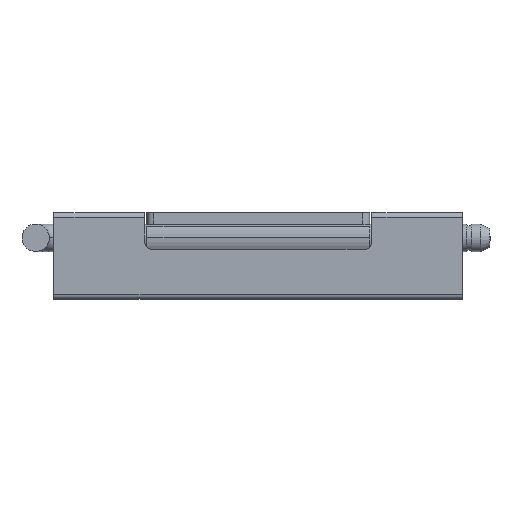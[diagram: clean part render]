
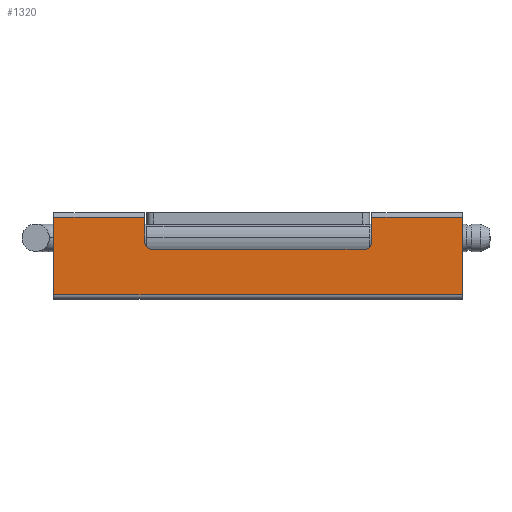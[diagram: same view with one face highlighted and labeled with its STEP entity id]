
A CAD part, top view. The second image highlights one B-rep face of the part: STEP entity #1320.
In plain terms, the highlighted planar face has unit normal (0, 0, 1).
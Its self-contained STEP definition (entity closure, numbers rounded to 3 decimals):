
#44 = EDGE_CURVE ( 'NONE', #1538, #2231, #514, .T. ) ;
#96 = ORIENTED_EDGE ( 'NONE', *, *, #1406, .F. ) ;
#148 = EDGE_CURVE ( 'NONE', #684, #874, #985, .T. ) ;
#180 = DIRECTION ( 'NONE',  ( 0., 0., -1. ) ) ;
#181 = CARTESIAN_POINT ( 'NONE',  ( 45., 18., 18.5 ) ) ;
#185 = CARTESIAN_POINT ( 'NONE',  ( 45., 18., 18.5 ) ) ;
#252 = CARTESIAN_POINT ( 'NONE',  ( -45., 18., 18.5 ) ) ;
#280 = ORIENTED_EDGE ( 'NONE', *, *, #1749, .F. ) ;
#288 = VECTOR ( 'NONE', #1743, 1000. ) ;
#334 = VECTOR ( 'NONE', #2130, 1000. ) ;
#366 = ORIENTED_EDGE ( 'NONE', *, *, #44, .T. ) ;
#472 = DIRECTION ( 'NONE',  ( -1., 0., 0. ) ) ;
#487 = CARTESIAN_POINT ( 'NONE',  ( -45., 18., 18.5 ) ) ;
#496 = CARTESIAN_POINT ( 'NONE',  ( 23.5, 12.5, 18.5 ) ) ;
#514 = LINE ( 'NONE', #487, #863 ) ;
#540 = CARTESIAN_POINT ( 'NONE',  ( 23.5, 11., 18.5 ) ) ;
#562 = DIRECTION ( 'NONE',  ( 0., 1., 0. ) ) ;
#578 = EDGE_CURVE ( 'NONE', #2436, #1538, #2149, .T. ) ;
#610 = CIRCLE ( 'NONE', #654, 1.5 ) ;
#654 = AXIS2_PLACEMENT_3D ( 'NONE', #1396, #2235, #2044 ) ;
#679 = CARTESIAN_POINT ( 'NONE',  ( 25., 18., 18.5 ) ) ;
#684 = VERTEX_POINT ( 'NONE', #2749 ) ;
#725 = ORIENTED_EDGE ( 'NONE', *, *, #2043, .T. ) ;
#788 = CIRCLE ( 'NONE', #1006, 1.5 ) ;
#849 = VERTEX_POINT ( 'NONE', #1376 ) ;
#863 = VECTOR ( 'NONE', #2221, 1000. ) ;
#874 = VERTEX_POINT ( 'NONE', #679 ) ;
#954 = ORIENTED_EDGE ( 'NONE', *, *, #1843, .F. ) ;
#980 = VERTEX_POINT ( 'NONE', #540 ) ;
#985 = LINE ( 'NONE', #181, #1685 ) ;
#999 = DIRECTION ( 'NONE',  ( 0., 1., 0. ) ) ;
#1006 = AXIS2_PLACEMENT_3D ( 'NONE', #496, #180, #999 ) ;
#1020 = CARTESIAN_POINT ( 'NONE',  ( -45., 1., 18.5 ) ) ;
#1052 = PLANE ( 'NONE',  #1606 ) ;
#1089 = ORIENTED_EDGE ( 'NONE', *, *, #578, .T. ) ;
#1151 = LINE ( 'NONE', #1582, #2746 ) ;
#1197 = ORIENTED_EDGE ( 'NONE', *, *, #1710, .F. ) ;
#1303 = CARTESIAN_POINT ( 'NONE',  ( -25., 18., 18.5 ) ) ;
#1320 = ADVANCED_FACE ( 'NONE', ( #2290 ), #1052, .F. ) ;
#1376 = CARTESIAN_POINT ( 'NONE',  ( 25., 12.5, 18.5 ) ) ;
#1382 = CARTESIAN_POINT ( 'NONE',  ( 45., 1., 18.5 ) ) ;
#1396 = CARTESIAN_POINT ( 'NONE',  ( -23.5, 12.5, 18.5 ) ) ;
#1406 = EDGE_CURVE ( 'NONE', #684, #2094, #2549, .T. ) ;
#1422 = DIRECTION ( 'NONE',  ( -1., 0., 0. ) ) ;
#1511 = CARTESIAN_POINT ( 'NONE',  ( -25., 12.5, 18.5 ) ) ;
#1531 = CARTESIAN_POINT ( 'NONE',  ( 25., 19., 18.5 ) ) ;
#1538 = VERTEX_POINT ( 'NONE', #252 ) ;
#1554 = VECTOR ( 'NONE', #2566, 1000. ) ;
#1582 = CARTESIAN_POINT ( 'NONE',  ( 45., 1., 18.5 ) ) ;
#1606 = AXIS2_PLACEMENT_3D ( 'NONE', #185, #2669, #562 ) ;
#1612 = LINE ( 'NONE', #2324, #1870 ) ;
#1685 = VECTOR ( 'NONE', #1422, 1000. ) ;
#1710 = EDGE_CURVE ( 'NONE', #2699, #980, #1612, .T. ) ;
#1743 = DIRECTION ( 'NONE',  ( 0., 1., 0. ) ) ;
#1749 = EDGE_CURVE ( 'NONE', #2436, #1795, #2532, .T. ) ;
#1795 = VERTEX_POINT ( 'NONE', #1511 ) ;
#1799 = CARTESIAN_POINT ( 'NONE',  ( -23.5, 11., 18.5 ) ) ;
#1806 = ORIENTED_EDGE ( 'NONE', *, *, #2146, .T. ) ;
#1843 = EDGE_CURVE ( 'NONE', #849, #874, #2567, .T. ) ;
#1870 = VECTOR ( 'NONE', #2458, 1000. ) ;
#1926 = EDGE_LOOP ( 'NONE', ( #1197, #1806, #280, #1089, #366, #2297, #96, #1941, #954, #725 ) ) ;
#1941 = ORIENTED_EDGE ( 'NONE', *, *, #148, .T. ) ;
#2003 = VECTOR ( 'NONE', #2568, 1000. ) ;
#2043 = EDGE_CURVE ( 'NONE', #849, #980, #788, .T. ) ;
#2044 = DIRECTION ( 'NONE',  ( 0., 1., 0. ) ) ;
#2094 = VERTEX_POINT ( 'NONE', #1382 ) ;
#2130 = DIRECTION ( 'NONE',  ( 0., -1., 0. ) ) ;
#2146 = EDGE_CURVE ( 'NONE', #2699, #1795, #610, .T. ) ;
#2149 = LINE ( 'NONE', #2354, #1554 ) ;
#2171 = CARTESIAN_POINT ( 'NONE',  ( 45., 18., 18.5 ) ) ;
#2221 = DIRECTION ( 'NONE',  ( 0., -1., 0. ) ) ;
#2231 = VERTEX_POINT ( 'NONE', #1020 ) ;
#2235 = DIRECTION ( 'NONE',  ( 0., 0., -1. ) ) ;
#2290 = FACE_OUTER_BOUND ( 'NONE', #1926, .T. ) ;
#2297 = ORIENTED_EDGE ( 'NONE', *, *, #2488, .F. ) ;
#2324 = CARTESIAN_POINT ( 'NONE',  ( -25., 11., 18.5 ) ) ;
#2337 = CARTESIAN_POINT ( 'NONE',  ( -25., 19., 18.5 ) ) ;
#2354 = CARTESIAN_POINT ( 'NONE',  ( 45., 18., 18.5 ) ) ;
#2436 = VERTEX_POINT ( 'NONE', #1303 ) ;
#2458 = DIRECTION ( 'NONE',  ( 1., 0., 0. ) ) ;
#2488 = EDGE_CURVE ( 'NONE', #2094, #2231, #1151, .T. ) ;
#2532 = LINE ( 'NONE', #2337, #334 ) ;
#2549 = LINE ( 'NONE', #2171, #2003 ) ;
#2566 = DIRECTION ( 'NONE',  ( -1., 0., 0. ) ) ;
#2567 = LINE ( 'NONE', #1531, #288 ) ;
#2568 = DIRECTION ( 'NONE',  ( 0., -1., 0. ) ) ;
#2669 = DIRECTION ( 'NONE',  ( 0., 0., -1. ) ) ;
#2699 = VERTEX_POINT ( 'NONE', #1799 ) ;
#2746 = VECTOR ( 'NONE', #472, 1000. ) ;
#2749 = CARTESIAN_POINT ( 'NONE',  ( 45., 18., 18.5 ) ) ;
